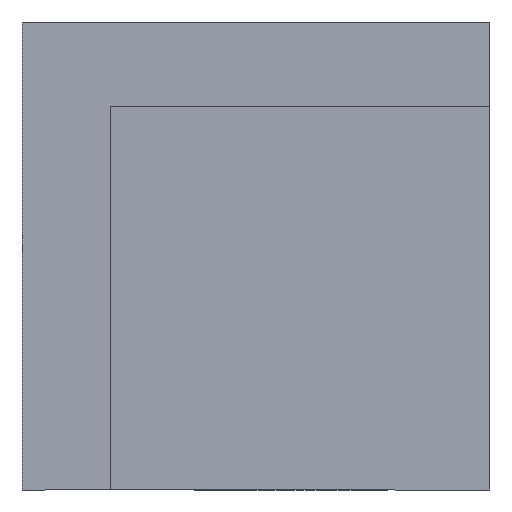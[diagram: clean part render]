
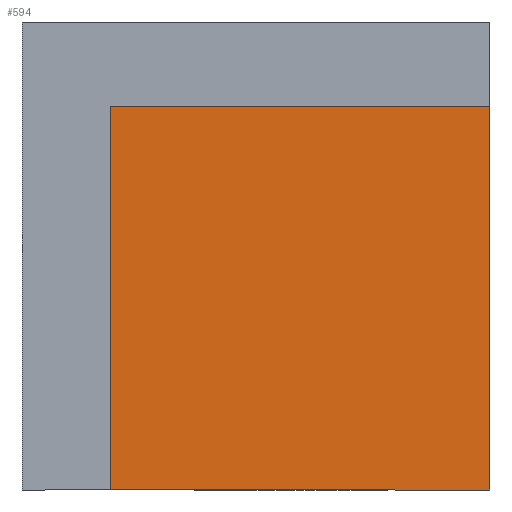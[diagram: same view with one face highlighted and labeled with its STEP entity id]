
A CAD part, left-side view. The second image highlights one B-rep face of the part: STEP entity #594.
In plain terms, the highlighted planar face has unit normal (-1, 0, 0).
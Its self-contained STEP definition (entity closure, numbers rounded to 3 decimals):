
#27 = VERTEX_POINT ( 'NONE', #194 ) ;
#31 = VECTOR ( 'NONE', #483, 1000. ) ;
#40 = DIRECTION ( 'NONE',  ( -1., 0., 0. ) ) ;
#78 = VERTEX_POINT ( 'NONE', #208 ) ;
#92 = ORIENTED_EDGE ( 'NONE', *, *, #547, .T. ) ;
#97 = LINE ( 'NONE', #340, #456 ) ;
#171 = AXIS2_PLACEMENT_3D ( 'NONE', #531, #40, #596 ) ;
#194 = CARTESIAN_POINT ( 'NONE',  ( -17.5, -10., -12.5 ) ) ;
#208 = CARTESIAN_POINT ( 'NONE',  ( -17.5, 10.25, -12.5 ) ) ;
#234 = LINE ( 'NONE', #672, #372 ) ;
#247 = LINE ( 'NONE', #359, #771 ) ;
#321 = ORIENTED_EDGE ( 'NONE', *, *, #717, .T. ) ;
#340 = CARTESIAN_POINT ( 'NONE',  ( -17.5, -10., -12.5 ) ) ;
#359 = CARTESIAN_POINT ( 'NONE',  ( -17.5, -10., 8. ) ) ;
#372 = VECTOR ( 'NONE', #728, 1000. ) ;
#373 = ORIENTED_EDGE ( 'NONE', *, *, #555, .T. ) ;
#416 = DIRECTION ( 'NONE',  ( 0., 1., 0. ) ) ;
#456 = VECTOR ( 'NONE', #588, 1000. ) ;
#472 = PLANE ( 'NONE',  #171 ) ;
#483 = DIRECTION ( 'NONE',  ( 0., 0., -1. ) ) ;
#490 = EDGE_CURVE ( 'NONE', #505, #78, #616, .T. ) ;
#505 = VERTEX_POINT ( 'NONE', #723 ) ;
#531 = CARTESIAN_POINT ( 'NONE',  ( -17.5, 0., 0. ) ) ;
#540 = ORIENTED_EDGE ( 'NONE', *, *, #490, .T. ) ;
#547 = EDGE_CURVE ( 'NONE', #698, #505, #247, .T. ) ;
#555 = EDGE_CURVE ( 'NONE', #27, #698, #234, .T. ) ;
#588 = DIRECTION ( 'NONE',  ( 0., -1., 0. ) ) ;
#594 = ADVANCED_FACE ( 'NONE', ( #707 ), #472, .T. ) ;
#596 = DIRECTION ( 'NONE',  ( 0., 0., 1. ) ) ;
#604 = CARTESIAN_POINT ( 'NONE',  ( -17.5, 10.25, -12.5 ) ) ;
#616 = LINE ( 'NONE', #604, #31 ) ;
#637 = EDGE_LOOP ( 'NONE', ( #373, #92, #540, #321 ) ) ;
#672 = CARTESIAN_POINT ( 'NONE',  ( -17.5, -10., 0. ) ) ;
#698 = VERTEX_POINT ( 'NONE', #762 ) ;
#707 = FACE_OUTER_BOUND ( 'NONE', #637, .T. ) ;
#717 = EDGE_CURVE ( 'NONE', #78, #27, #97, .T. ) ;
#723 = CARTESIAN_POINT ( 'NONE',  ( -17.5, 10.25, 8. ) ) ;
#728 = DIRECTION ( 'NONE',  ( 0., 0., 1. ) ) ;
#762 = CARTESIAN_POINT ( 'NONE',  ( -17.5, -10., 8. ) ) ;
#771 = VECTOR ( 'NONE', #416, 1000. ) ;
